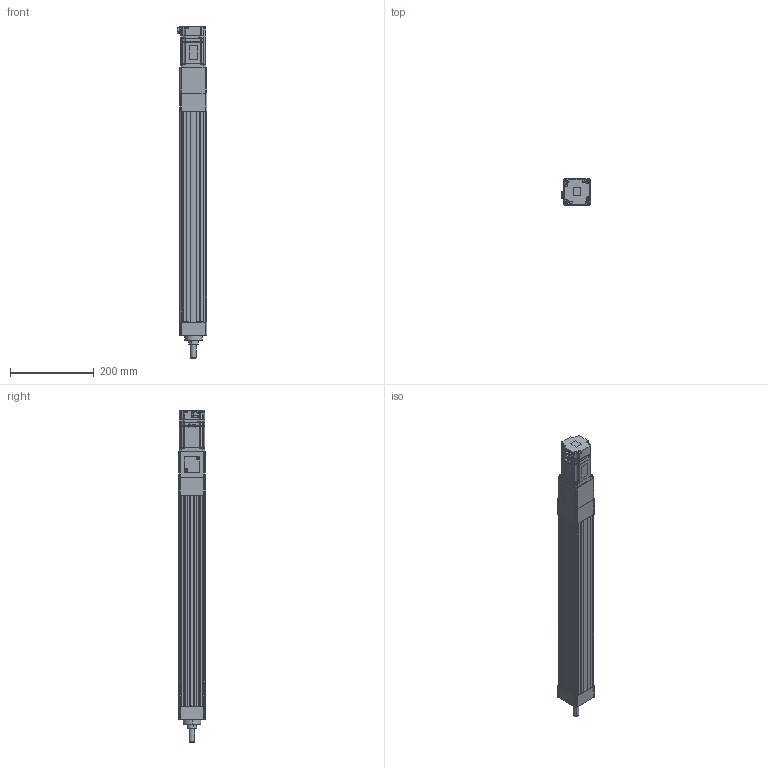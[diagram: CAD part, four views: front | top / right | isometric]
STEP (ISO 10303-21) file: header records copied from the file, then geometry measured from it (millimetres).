
FILE_DESCRIPTION (( 'STEP AP203' ), '1' );
FILE_NAME ('ANS065R-S400-05(10)(20)-W40-M.STEP', '2019-03-02T12:25:54', ( 'user' ), ( '' ), 'SwSTEP 2.0', 'SolidWorks 2013', '' );
FILE_SCHEMA (( 'CONFIG_CONTROL_DESIGN' ));
Length unit declared in the file: millimetre
Products named in the file (4): ANS065R S400 VER2; sgmjv_04a_a21; ANS065 ROD ST400-M; ANS065R-S400-05(10)(20)-W40-M
Assembly tree (3 placements, depth 2):
  ANS065R-S400-05(10)(20)-W40-M
    ANS065R S400 VER2
    sgmjv_04a_a21
    ANS065 ROD ST400-M
Bounding box: 71.3 x 65 x 794.6 mm (x, y, z)
Volume: 1912734.9 mm3; surface area: 452613.7 mm2
Topology: 3 solids, 7 shells, 1080 faces, 2853 edges, 1837 vertices
Faces by surface type: plane 636, cylinder 358, cone 86
Entity records: 33539 total; most frequent: CARTESIAN_POINT 5970, DIRECTION 5703, ORIENTED_EDGE 5658, EDGE_CURVE 2829, VECTOR 1999, LINE 1999, AXIS2_PLACEMENT_3D 1852, VERTEX_POINT 1837
